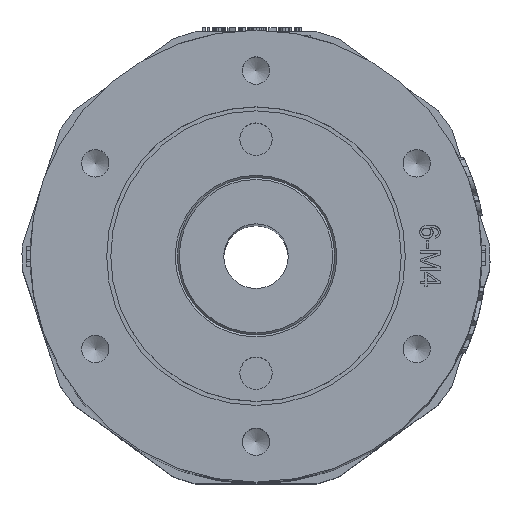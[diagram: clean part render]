
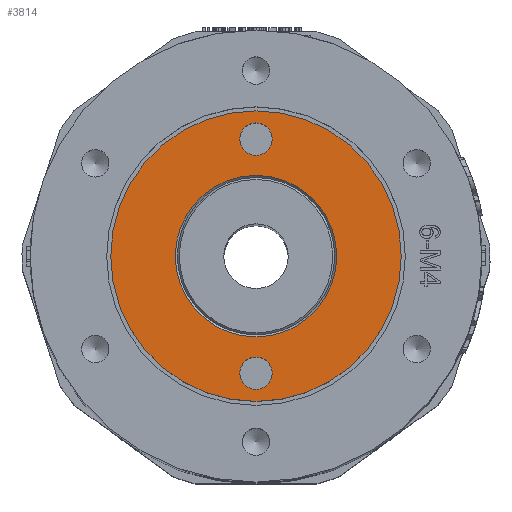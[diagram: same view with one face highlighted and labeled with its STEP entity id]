
A CAD part, top view. The second image highlights one B-rep face of the part: STEP entity #3814.
In plain terms, the highlighted planar face has unit normal (0, 0, 1).
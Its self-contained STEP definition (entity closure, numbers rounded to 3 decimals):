
#264=FACE_BOUND('',#6597,.T.);
#265=FACE_BOUND('',#6598,.T.);
#266=FACE_BOUND('',#6599,.T.);
#267=FACE_BOUND('',#6600,.T.);
#781=CIRCLE('',#21874,2.);
#783=CIRCLE('',#21878,2.);
#785=CIRCLE('',#21882,10.);
#788=CIRCLE('',#21887,18.);
#3814=ADVANCED_FACE('',(#264,#265,#266,#267),#4645,.F.);
#4645=PLANE('',#21890);
#6597=EDGE_LOOP('',(#10457));
#6598=EDGE_LOOP('',(#10458));
#6599=EDGE_LOOP('',(#10459));
#6600=EDGE_LOOP('',(#10460));
#10457=ORIENTED_EDGE('',*,*,#17899,.T.);
#10458=ORIENTED_EDGE('',*,*,#17901,.T.);
#10459=ORIENTED_EDGE('',*,*,#17903,.T.);
#10460=ORIENTED_EDGE('',*,*,#17906,.F.);
#15043=VERTEX_POINT('',#39020);
#15045=VERTEX_POINT('',#39026);
#15047=VERTEX_POINT('',#39032);
#15050=VERTEX_POINT('',#39040);
#17899=EDGE_CURVE('',#15043,#15043,#781,.T.);
#17901=EDGE_CURVE('',#15045,#15045,#783,.T.);
#17903=EDGE_CURVE('',#15047,#15047,#785,.T.);
#17906=EDGE_CURVE('',#15050,#15050,#788,.T.);
#21874=AXIS2_PLACEMENT_3D('',#39019,#24236,#24237);
#21878=AXIS2_PLACEMENT_3D('',#39025,#24244,#24245);
#21882=AXIS2_PLACEMENT_3D('',#39031,#24252,#24253);
#21887=AXIS2_PLACEMENT_3D('',#39039,#24262,#24263);
#21890=AXIS2_PLACEMENT_3D('',#39044,#24268,#24269);
#24236=DIRECTION('',(0.,0.,-1.));
#24237=DIRECTION('',(-1.,0.,0.));
#24244=DIRECTION('',(0.,0.,-1.));
#24245=DIRECTION('',(-1.,0.,0.));
#24252=DIRECTION('',(0.,0.,-1.));
#24253=DIRECTION('',(-1.,0.,0.));
#24262=DIRECTION('',(0.,0.,-1.));
#24263=DIRECTION('',(-1.,0.,0.));
#24268=DIRECTION('',(0.,0.,-1.));
#24269=DIRECTION('',(-1.,0.,0.));
#39019=CARTESIAN_POINT('',(0.,14.5,141.5));
#39020=CARTESIAN_POINT('',(-2.,14.5,141.5));
#39025=CARTESIAN_POINT('',(0.,-14.5,141.5));
#39026=CARTESIAN_POINT('',(-2.,-14.5,141.5));
#39031=CARTESIAN_POINT('',(0.,0.,141.5));
#39032=CARTESIAN_POINT('',(-10.,0.,141.5));
#39039=CARTESIAN_POINT('',(0.,0.,141.5));
#39040=CARTESIAN_POINT('',(-18.,0.,141.5));
#39044=CARTESIAN_POINT('',(0.,0.,141.5));
